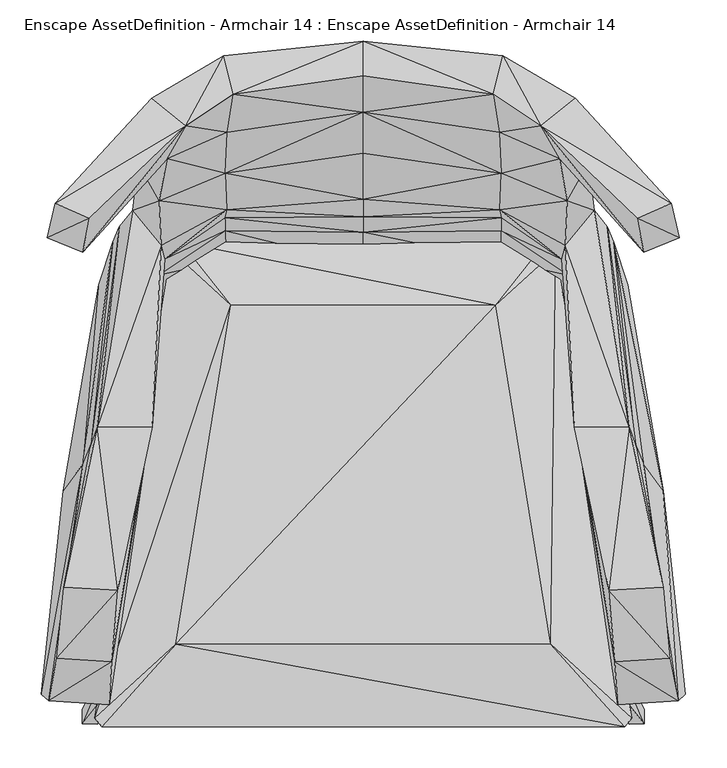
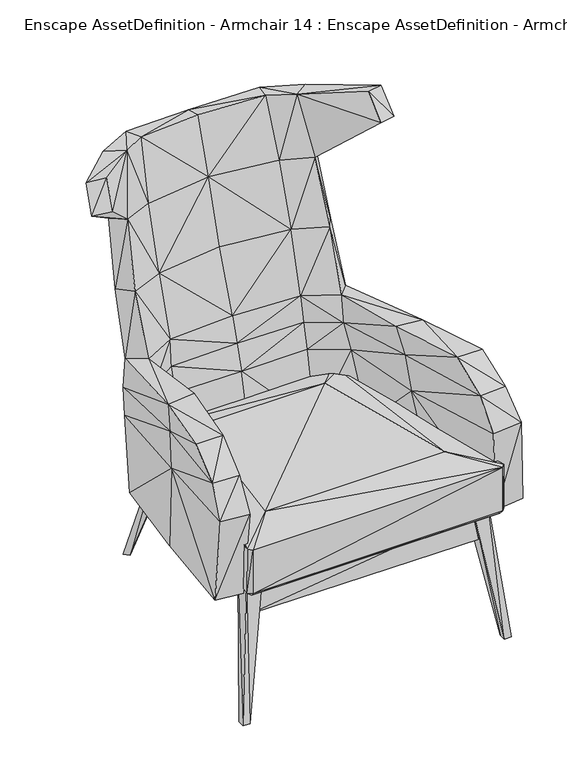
"""IFC4 building model written with IfcOpenShell, lengths in millimetres: geographic element geometry, Enscape AssetDefinition - Armchair 14 : Enscape AssetDefinition - Armchair 14."""

from ifc_helpers import new_model, si_unit, origin, place, context, project, spatial, faceted_brep, source, transform, mapped, element, save


def enscape_assetdefinition_armchair_14_enscape_assetdefinition_c5dd8c47(model_context):
    return source(origin(), model_context, "Body", "Brep", [
        faceted_brep([(166.8639481, 265.0573254, 746.3294268), (164.7999585, 314.7172928, 901.8528461), (-3.36e-05, 338.5574222, 900.7737637), (157.4148685, 360.5360687, 1050.5726337), (237.6067936, 282.2928131, 904.2466879), (214.7416472, 322.1824765, 1057.043314), (3.61e-05, 382.9313517, 1040.199995), (1.2e-06, 424.5851338, 1028.3044577), (169.1541821, 407.0507884, 1040.391326), (-3.36e-05, 396.6716826, 887.6348734), (-169.1541821, 407.050848, 1040.3915644), (-157.4147642, 360.5360389, 1050.5725145), (-214.741528, 322.1824169, 1057.043314), (-164.7999734, 314.717263, 901.8527865), (-182.3212057, 383.1547499, 884.0053082), (-256.3849688, 355.8965325, 1048.6137867), (-188.6117607, 345.1605439, 730.8163643), (3.61e-05, 349.5945632, 732.2234511), (-262.5070512, 321.73419, 892.6842809), (-382.7343285, 186.9793683, 1021.2852955), (-372.8629351, 228.2545418, 1082.337141), (-272.6398408, 276.1520445, 734.4587445), (-237.6066893, 282.2928429, 904.2466879), (-184.462443, 301.2526333, 589.9709463), (1.2e-06, 304.0006161, 577.9070258), (-246.9508797, 231.7657024, 745.655477), (-279.3777883, 220.1069891, 584.8577023), (-185.4826808, 278.976202, 517.8408027), (-244.5278168, 177.8009981, 597.4268913), (-295.6304252, 200.4351616, 525.524497), (-322.2682774, -42.5734594, 636.5733147), (-166.8639183, 265.0573254, 746.3293076), (-165.0823951, 220.7070589, 596.1303711), (-255.635798, -42.1415865, 642.973125), (-240.1282936, 160.8090252, 534.3855619), (3.61e-05, 233.2884073, 593.7061906), (-3.36e-05, 212.554276, 532.3418975), (-167.34837, 211.1197114, 530.6385159), (-263.0806565, -68.8080341, 579.8367858), (-248.078391, 141.6937262, 471.2679088), (-166.8580174, 195.3350753, 467.9703712), (-296.9759703, -240.168035, 665.1480794), (-265.7514513, -92.0887142, 496.6140687), (-304.6267033, -326.7328739, 612.2906804), (-289.9547517, -123.9783913, 316.1689341), (-266.2576735, 102.0675227, 297.7251112), (-166.1390364, 159.6346498, 294.3075299), (-307.829529, -378.2684803, 541.1657095), (-370.8233237, -322.4826157, 611.9292378), (-381.0485601, -373.8038242, 543.3760881), (-319.6583688, -370.3605831, 328.7043869), (-389.8047209, -365.7689393, 331.8703473), (-339.4262493, -87.5360221, 498.8941848), (-329.7483027, -63.8813227, 580.0552368), (-362.8758788, -236.0065281, 660.6075764), (-320.3667104, 129.9592704, 293.9111888), (-363.1984293, -119.4155291, 319.2566037), (-303.5025895, 181.3164949, 464.4638598), (-177.4317026, 200.8506656, 286.9569957), (-183.8043034, 261.7363334, 457.4367106), (-3.36e-05, 259.7487271, 456.0301304), (1.2e-06, 278.0514359, 517.1050429), (188.6117011, 345.1605439, 730.8163047), (184.4623387, 301.2526333, 589.9709463), (185.4827702, 278.976202, 517.8408623), (183.804363, 261.7363632, 457.4367702), (295.630455, 200.4352361, 525.5245566), (279.3778777, 220.1069742, 584.857583), (272.6397812, 276.1521041, 734.4589233), (246.9508201, 231.7656726, 745.655477), (322.2682774, -42.5734594, 636.5731359), (244.5280701, 177.8009981, 597.4269509), (262.507081, 321.7341602, 892.6841617), (165.0823355, 220.707044, 596.1302519), (255.6357086, -42.1416238, 642.973125), (240.128234, 160.8090401, 534.3856812), (167.3484147, 211.1196965, 530.6383967), (-3.36e-05, 288.8713181, 743.9432144), (-339.7613168, 169.1824198, 1029.0777683), (-331.5157592, 210.2110833, 1092.1664238), (3.61e-05, 193.6183572, 469.0831304), (1.2e-06, 154.573828, 295.2651978), (166.1389172, 159.6346796, 294.3075299), (166.858092, 195.3350753, 467.9703712), (248.0784655, 141.6936964, 471.267879), (177.4318367, 200.8506656, 286.9569957), (266.2576139, 102.0675227, 297.7251112), (265.7514513, -92.0887962, 496.6140687), (263.0806267, -68.8080341, 579.8367858), (304.6267927, -326.7327845, 612.2906804), (296.9759405, -240.1679903, 665.1480794), (362.8757596, -236.0064536, 660.6075764), (370.8230853, -322.4824071, 611.9291782), (307.8295588, -378.2684803, 541.1657095), (381.0485005, -373.8038242, 543.3760881), (329.7483325, -63.881211, 580.0552368), (339.4262195, -87.5361711, 498.8941848), (303.5026193, 181.3165098, 464.4638598), (363.1986678, -119.4155291, 319.2566037), (389.8048401, -365.7689393, 331.8703473), (319.6584582, -370.3605831, 328.7044168), (289.9547815, -123.978354, 316.1688447), (320.3665316, 129.9592406, 293.9112484), (-3.36e-05, 196.8404949, 285.774231), (339.7613466, 169.1824198, 1029.0777683), (382.7343881, 186.9794279, 1021.2850571), (331.5156996, 210.211128, 1092.1664238), (256.3850582, 355.8964431, 1048.6134291), (372.8629351, 228.2545865, 1082.3372602), (182.3212653, 383.1547201, 884.0052485)], [[[0, 1, 2]], [[1, 3, 2]], [[1, 0, 4]], [[3, 1, 5]], [[5, 1, 4]], [[6, 3, 7]], [[8, 3, 5]], [[2, 3, 6]], [[7, 3, 8]], [[7, 8, 9]], [[10, 11, 7]], [[9, 10, 7]], [[7, 11, 6]], [[6, 11, 2]], [[12, 11, 10]], [[2, 11, 13]], [[12, 13, 11]], [[14, 10, 9]], [[14, 15, 10]], [[12, 10, 15]], [[16, 14, 17]], [[15, 14, 18]], [[17, 14, 9]], [[16, 18, 14]], [[15, 19, 20]], [[19, 15, 18]], [[20, 12, 15]], [[18, 16, 21]], [[21, 22, 18]], [[22, 19, 18]], [[23, 16, 24]], [[24, 16, 17]], [[23, 21, 16]], [[25, 22, 21]], [[21, 23, 26]], [[26, 25, 21]], [[24, 27, 23]], [[27, 26, 23]], [[28, 25, 26]], [[26, 27, 29]], [[29, 30, 26]], [[30, 28, 26]], [[25, 31, 22]], [[28, 32, 25]], [[25, 32, 31]], [[33, 28, 30]], [[34, 32, 28]], [[33, 34, 28]], [[35, 32, 36]], [[35, 31, 32]], [[36, 32, 37]], [[32, 34, 37]], [[38, 34, 33]], [[39, 40, 34]], [[38, 39, 34]], [[34, 40, 37]], [[41, 33, 30]], [[41, 38, 33]], [[42, 39, 38]], [[43, 38, 41]], [[43, 42, 38]], [[44, 45, 39]], [[45, 46, 39]], [[44, 39, 42]], [[39, 46, 40]], [[47, 42, 43]], [[47, 44, 42]], [[43, 41, 48]], [[47, 43, 49]], [[49, 43, 48]], [[50, 44, 47]], [[50, 47, 51]], [[51, 47, 49]], [[52, 49, 48]], [[52, 51, 49]], [[53, 48, 54]], [[52, 48, 53]], [[48, 41, 54]], [[55, 56, 52]], [[57, 52, 53]], [[56, 51, 52]], [[55, 52, 57]], [[44, 50, 51]], [[44, 51, 56]], [[55, 44, 56]], [[45, 44, 55]], [[57, 58, 55]], [[58, 45, 55]], [[57, 59, 58]], [[29, 59, 57]], [[57, 53, 29]], [[59, 27, 60]], [[60, 58, 59]], [[59, 29, 27]], [[29, 53, 30]], [[53, 54, 30]], [[41, 30, 54]], [[27, 24, 61]], [[60, 27, 61]], [[17, 62, 24]], [[24, 63, 64]], [[24, 62, 63]], [[24, 64, 61]], [[61, 64, 60]], [[65, 64, 66]], [[64, 63, 67]], [[60, 64, 65]], [[64, 67, 66]], [[63, 62, 68]], [[63, 68, 67]], [[68, 69, 67]], [[70, 66, 67]], [[67, 69, 71]], [[71, 70, 67]], [[72, 4, 68]], [[68, 4, 69]], [[62, 72, 68]], [[0, 73, 69]], [[4, 0, 69]], [[69, 73, 71]], [[71, 74, 70]], [[75, 74, 71]], [[73, 75, 71]], [[73, 0, 35]], [[76, 73, 36]], [[73, 76, 75]], [[36, 73, 35]], [[0, 2, 77]], [[35, 0, 77]], [[77, 31, 35]], [[2, 31, 77]], [[31, 2, 13]], [[22, 31, 13]], [[22, 13, 12]], [[22, 78, 19]], [[12, 78, 22]], [[78, 12, 79]], [[79, 12, 20]], [[78, 79, 19]], [[19, 79, 20]], [[36, 37, 80]], [[80, 76, 36]], [[80, 37, 40]], [[81, 82, 80]], [[83, 76, 80]], [[80, 82, 83]], [[40, 81, 80]], [[76, 83, 75]], [[83, 82, 84]], [[75, 83, 84]], [[85, 82, 81]], [[82, 85, 86]], [[84, 82, 86]], [[84, 87, 88]], [[86, 87, 84]], [[84, 88, 75]], [[75, 88, 74]], [[88, 89, 90]], [[88, 90, 74]], [[87, 89, 88]], [[74, 90, 70]], [[91, 90, 92]], [[92, 90, 89]], [[70, 90, 91]], [[87, 93, 89]], [[92, 89, 94]], [[94, 89, 93]], [[92, 95, 91]], [[94, 96, 92]], [[92, 96, 95]], [[91, 95, 70]], [[95, 66, 70]], [[96, 97, 95]], [[95, 97, 66]], [[98, 97, 96]], [[94, 98, 96]], [[99, 98, 94]], [[94, 93, 100]], [[94, 100, 99]], [[87, 100, 93]], [[101, 100, 87]], [[100, 101, 99]], [[99, 101, 98]], [[98, 102, 97]], [[101, 102, 98]], [[86, 101, 87]], [[101, 86, 102]], [[85, 97, 102]], [[86, 85, 102]], [[65, 85, 60]], [[85, 65, 97]], [[60, 85, 103]], [[85, 81, 103]], [[103, 58, 60]], [[81, 58, 103]], [[40, 46, 81]], [[81, 46, 58]], [[58, 46, 45]], [[65, 66, 97]], [[104, 5, 4]], [[105, 104, 4]], [[105, 4, 72]], [[5, 104, 106]], [[105, 106, 104]], [[107, 5, 108]], [[108, 5, 106]], [[8, 5, 107]], [[108, 106, 105]], [[107, 105, 72]], [[105, 107, 108]], [[62, 109, 72]], [[109, 107, 72]], [[109, 8, 107]], [[9, 8, 109]], [[9, 109, 17]], [[17, 109, 62]]]),
        faceted_brep([(314.8073256, -395.0210512, 335.9993398), (-314.8073256, -395.0210512, 335.9993398), (222.3787457, 137.0136589, 282.6916575), (-316.6939318, -405.0227106, 347.0532), (-325.3032267, -395.0740099, 346.1051583), (-222.3787457, 137.0136589, 282.6916575), (-232.2986424, 139.7170424, 292.5219834), (316.6939318, -405.0227106, 347.0532), (325.3032267, -395.0740099, 346.1051583), (-316.6939318, -405.0227106, 463.6149108), (316.6939318, -405.0227106, 463.6149108), (-324.8555362, -395.1487839, 462.5532329), (-227.0615399, -305.2348495, 475.7303298), (324.8555362, -395.1487839, 462.5532329), (227.0615399, -305.2348495, 475.7303298), (232.7494025, 171.1335778, 404.5578539), (160.265103, 104.9084812, 433.7261319), (-160.265103, 104.9084812, 433.7261319), (-232.7494025, 171.1335778, 404.5578539), (-220.7902521, 181.1372638, 403.6785066), (220.7902521, 181.1372638, 403.6785066), (232.2986424, 139.7170424, 292.5219834), (220.7902521, 149.7229934, 291.3697064), (-220.7902521, 149.7229934, 291.3697064)], [[[0, 1, 2]], [[1, 3, 4]], [[5, 1, 6]], [[1, 0, 3]], [[2, 1, 5]], [[6, 1, 4]], [[7, 0, 8]], [[0, 2, 8]], [[3, 0, 7]], [[9, 3, 10]], [[3, 9, 4]], [[10, 3, 7]], [[11, 6, 4]], [[4, 9, 11]], [[11, 9, 12]], [[10, 12, 9]], [[10, 13, 14]], [[14, 12, 10]], [[10, 7, 13]], [[13, 7, 8]], [[13, 8, 15]], [[15, 14, 13]], [[16, 14, 15]], [[16, 12, 14]], [[17, 12, 16]], [[12, 17, 11]], [[18, 6, 11]], [[11, 17, 18]], [[19, 18, 17]], [[17, 16, 19]], [[15, 20, 16]], [[19, 16, 20]], [[15, 21, 20]], [[15, 8, 21]], [[20, 22, 19]], [[20, 21, 22]], [[19, 23, 18]], [[19, 22, 23]], [[18, 23, 6]], [[5, 6, 23]], [[22, 5, 23]], [[21, 2, 22]], [[2, 5, 22]], [[8, 2, 21]]]),
        faceted_brep([(-240.3485328, 296.7507243, 0.0), (-170.677349, 226.7718613, 349.1798043), (-228.9056778, 308.4369302, 0.0), (-195.3801066, 201.5437335, 346.4633226), (-170.677349, 178.4987301, 335.8440101), (-145.9746212, 203.726843, 338.5606408), (-217.4628824, 297.7620065, 0.0), (-228.9056778, 286.0758007, 0.0)], [[[0, 1, 2]], [[1, 3, 4]], [[1, 0, 3]], [[5, 2, 1]], [[1, 4, 5]], [[2, 5, 6]], [[2, 7, 0]], [[7, 2, 6]], [[7, 3, 0]], [[3, 7, 4]], [[6, 4, 7]], [[4, 6, 5]]]),
        faceted_brep([(-339.9689794, -401.5036523, -3.83e-05), (-305.5766821, -320.4919696, 338.5255039), (-339.9680257, -383.8839531, -3.83e-05), (-305.5766821, -358.5797548, 344.4523811), (-267.3507035, -359.3420386, 339.5538926), (-267.3506737, -321.2542534, 333.6270154), (-322.2835958, -384.2365444, -3.83e-05), (-322.2845495, -401.8562734, -3.83e-05)], [[[0, 1, 2]], [[1, 3, 4]], [[1, 0, 3]], [[5, 2, 1]], [[1, 4, 5]], [[2, 5, 6]], [[2, 7, 0]], [[7, 2, 6]], [[7, 3, 0]], [[3, 7, 4]], [[6, 4, 7]], [[4, 6, 5]]]),
        faceted_brep([(228.9057821, 308.4368408, 7.67e-05), (170.6773192, 226.7718166, 349.1798341), (240.348652, 296.7506647, 7.67e-05), (170.6773192, 178.4986854, 335.8440995), (195.3800768, 201.543659, 346.463412), (145.9745616, 203.7267983, 338.5606706), (228.9057821, 286.0757113, 7.67e-05), (217.4630016, 297.7619171, 7.67e-05)], [[[0, 1, 2]], [[3, 4, 1]], [[4, 2, 1]], [[1, 0, 5]], [[5, 3, 1]], [[2, 4, 6]], [[2, 6, 0]], [[7, 5, 0]], [[7, 0, 6]], [[5, 7, 3]], [[6, 3, 7]], [[3, 6, 4]]]),
        faceted_brep([(339.9678767, -383.8840127, 7.67e-05), (305.5764735, -320.492059, 338.5256231), (339.9688303, -401.5038013, 7.67e-05), (267.3504651, -359.3420982, 339.553982), (305.5764735, -358.5798144, 344.4525003), (267.3504949, -321.2543428, 333.6271048), (322.2844005, -401.8564224, 7.67e-05), (322.283417, -384.2366338, 7.67e-05)], [[[0, 1, 2]], [[3, 4, 1]], [[4, 2, 1]], [[1, 0, 5]], [[5, 3, 1]], [[2, 4, 6]], [[2, 6, 0]], [[7, 5, 0]], [[7, 0, 6]], [[5, 7, 3]], [[6, 3, 7]], [[3, 6, 4]]]),
        faceted_brep([(288.9970243, -354.3195128, 332.3750496), (-296.5361476, -360.7679307, 259.6905231), (288.6048257, -361.0348701, 256.6822469), (288.9970243, -341.3033783, 331.220299), (-296.143949, -354.0525734, 335.3833556), (288.6048257, -348.0187356, 255.5274963), (-296.143949, -341.0364389, 334.2285752), (-296.5361476, -347.7517962, 258.5357428)], [[[0, 1, 2]], [[3, 4, 0]], [[5, 6, 3]], [[2, 7, 5]], [[1, 4, 6]], [[2, 3, 0]], [[1, 0, 4]], [[4, 3, 6]], [[6, 5, 7]], [[7, 2, 1]], [[1, 6, 7]], [[3, 2, 5]]]),
    ])


if __name__ == "__main__":
    model = new_model("IFC4")
    model_context = context("Model", 3, world=origin())
    ifc_project = project(units=[si_unit("LENGTHUNIT", "METRE", prefix="MILLI")], contexts=[model_context])
    site = spatial("IfcSite", under=ifc_project)
    building = spatial("IfcBuilding", under=site)
    placement = place(None, origin())
    enscape_assetdefinition_armchair_14_enscape_assetdefinition_shape = enscape_assetdefinition_armchair_14_enscape_assetdefinition_c5dd8c47(model_context)
    element("IfcGeographicElement", 1, ObjectType="Enscape AssetDefinition - Armchair 14 : Enscape AssetDefinition - Armchair 14", at=placement, inside=building, context=model_context, shape_type="MappedRepresentation", body=[
        mapped(enscape_assetdefinition_armchair_14_enscape_assetdefinition_shape, transform((0.0, 0.0, 0.0), x_axis=(1.0, 0.0, 0.0), y_axis=(0.0, 1.0, 0.0), z_axis=(0.0, 0.0, 1.0))),
    ])
    save(model, "model.ifc")
